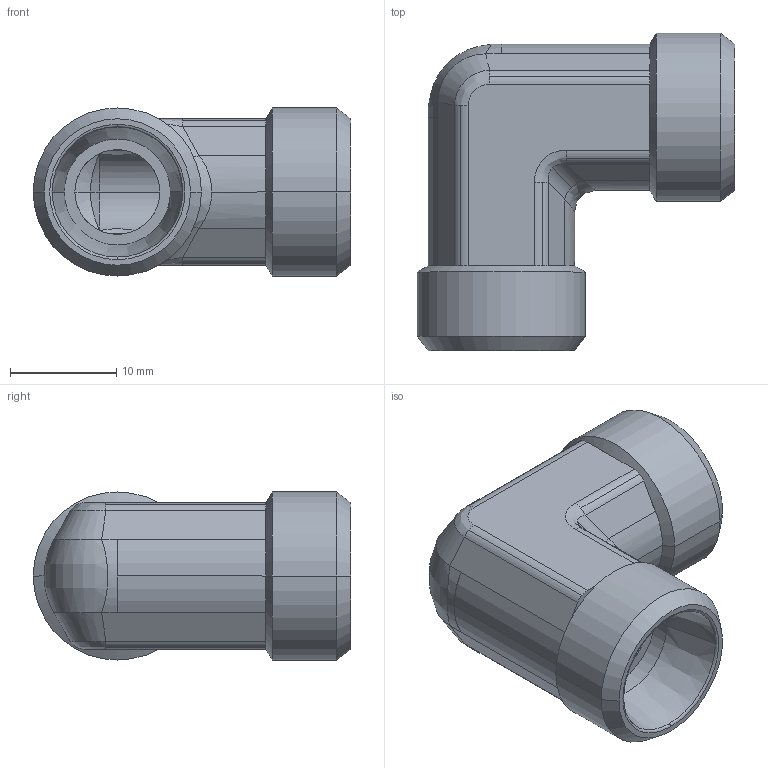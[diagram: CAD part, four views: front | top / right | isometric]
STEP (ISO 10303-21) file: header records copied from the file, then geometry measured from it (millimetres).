
FILE_DESCRIPTION((''),'2;1');
FILE_NAME('103806.stp','2007-10-31T11:53:55',(''),(''),'AutoCAD STEP 2000i','AutoCAD 2000i',', , ');
FILE_SCHEMA(('CONFIG_CONTROL_DESIGN'));
Length unit declared in the file: millimetre
Products named in the file (2): 103806.0; 3090#0
Assembly tree (1 placements, depth 2):
  103806.0
    3090#0
Bounding box: 29.93 x 29.93 x 15.85 mm (x, y, z)
Volume: 4642.4 mm3; surface area: 3478.6 mm2
Topology: 1 solids, 1 shells, 104 faces, 234 edges, 134 vertices
Faces by surface type: cylinder 44, plane 26, cone 20, bspline 14
Entity records: 3747 total; most frequent: CARTESIAN_POINT 1314, DIRECTION 526, ORIENTED_EDGE 468, EDGE_CURVE 234, AXIS2_PLACEMENT_3D 218, VERTEX_POINT 134, CIRCLE 108, EDGE_LOOP 108
